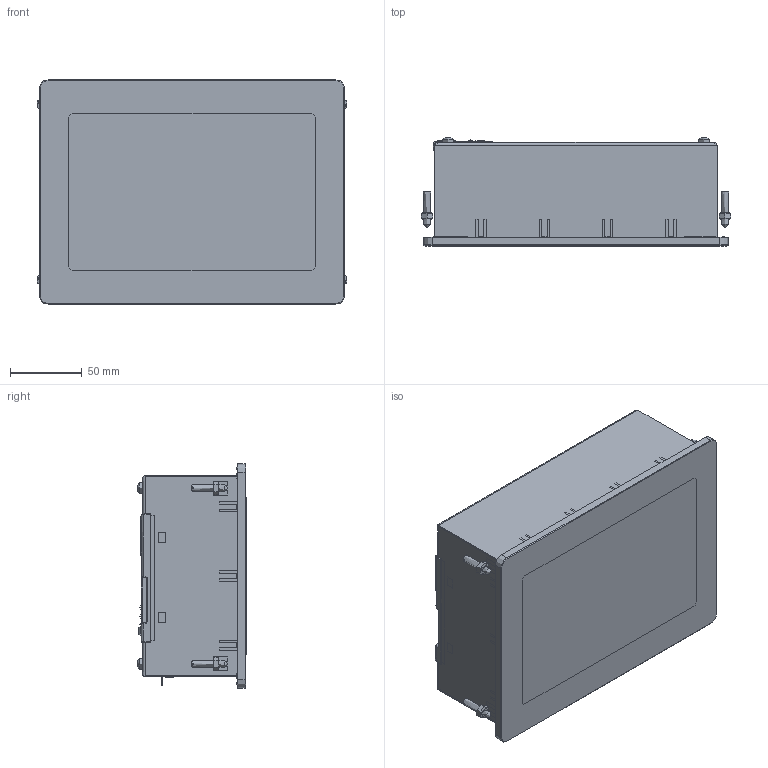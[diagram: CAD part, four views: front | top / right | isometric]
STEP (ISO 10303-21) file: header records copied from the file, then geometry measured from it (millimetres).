
FILE_DESCRIPTION(/* description */ (''),/* implementation_level */ '2;1');
FILE_NAME(/* name */ 'X:\Digidirect\CAD\Importierte Komponenten\CP700\01.stp',/* time_stamp */ '2013-10-10T13:41:43+02:00',/* author */ ('Maik Jost'),/* organization */ (''),/* preprocessor_version */ 'ST-DEVELOPER v15.2',/* originating_system */ 'Autodesk Inventor 2014',/* authorisation */ '');
FILE_SCHEMA (('CONFIG_CONTROL_DESIGN'));
Length unit declared in the file: millimetre
Products named in the file (2): Baugruppe38_Substitute_2; Baugruppe38
Bounding box: 215 x 75.15 x 156 mm (x, y, z)
Surface area: 252475.6 mm2 (no closed solid volume)
Topology: 0 solids, 103 shells, 535 faces, 2836 edges, 2278 vertices
Faces by surface type: plane 349, cylinder 138, cone 20, bspline 12, sphere 12, torus 4
Full cylindrical faces by diameter (mm): 1.7 x1, 2.24 x2, 2.4 x4, 3 x5, 5 x11, 6 x3, 8 x5
Entity records: 32058 total; most frequent: CARTESIAN_POINT 10654, DIRECTION 4158, ORIENTED_EDGE 3450, EDGE_CURVE 2754, VERTEX_POINT 2255, LINE 1814, VECTOR 1814, AXIS2_PLACEMENT_3D 1172
